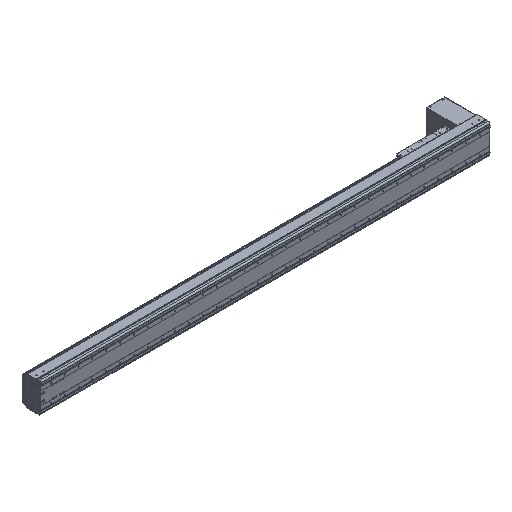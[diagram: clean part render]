
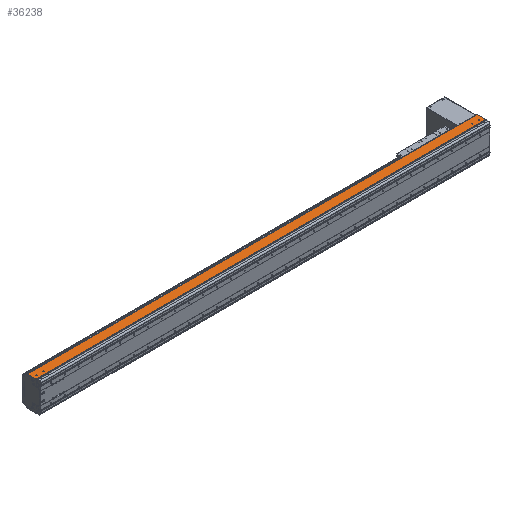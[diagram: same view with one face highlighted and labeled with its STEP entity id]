
A CAD part, isometric view. The second image highlights one B-rep face of the part: STEP entity #36238.
In plain terms, the highlighted planar face has unit normal (0, 0, 1).
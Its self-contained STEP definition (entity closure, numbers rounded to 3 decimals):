
#9657=DIRECTION('',(-1.,-0.006,-0.017));
#9658=VECTOR('',#9657,1.5);
#9659=CARTESIAN_POINT('',(1.5,94.,107.));
#9660=LINE('',#9659,#9658);
#9661=DIRECTION('',(-1.,0.,0.));
#9662=VECTOR('',#9661,3248.5);
#9663=CARTESIAN_POINT('',(0.,93.5,107.));
#9664=LINE('',#9663,#9662);
#9689=CARTESIAN_POINT('',(0.,93.992,
106.974));
#9690=CARTESIAN_POINT('',(0.,93.906,
106.974));
#9691=CARTESIAN_POINT('',(0.,93.75,
107.013));
#9692=CARTESIAN_POINT('',(0.,93.581,107.));
#9693=CARTESIAN_POINT('',(0.,93.5,107.));
#9695=CARTESIAN_POINT('',(-3223.5,54.,107.));
#9696=DIRECTION('',(0.,0.,-1.));
#9697=DIRECTION('',(1.,0.,0.));
#9698=AXIS2_PLACEMENT_3D('',#9695,#9696,#9697);
#9700=CARTESIAN_POINT('',(-3223.5,54.,107.));
#9701=DIRECTION('',(0.,0.,-1.));
#9702=DIRECTION('',(-1.,0.,0.));
#9703=AXIS2_PLACEMENT_3D('',#9700,#9701,#9702);
#9705=CARTESIAN_POINT('',(-3173.5,54.,107.));
#9706=DIRECTION('',(0.,0.,-1.));
#9707=DIRECTION('',(1.,0.,0.));
#9708=AXIS2_PLACEMENT_3D('',#9705,#9706,#9707);
#9710=CARTESIAN_POINT('',(-3173.5,54.,107.));
#9711=DIRECTION('',(0.,0.,-1.));
#9712=DIRECTION('',(-1.,0.,0.));
#9713=AXIS2_PLACEMENT_3D('',#9710,#9711,#9712);
#9715=CARTESIAN_POINT('',(-23.5,54.,107.));
#9716=DIRECTION('',(0.,0.,-1.));
#9717=DIRECTION('',(1.,0.,0.));
#9718=AXIS2_PLACEMENT_3D('',#9715,#9716,#9717);
#9720=CARTESIAN_POINT('',(-23.5,54.,107.));
#9721=DIRECTION('',(0.,0.,-1.));
#9722=DIRECTION('',(-1.,0.,0.));
#9723=AXIS2_PLACEMENT_3D('',#9720,#9721,#9722);
#9725=CARTESIAN_POINT('',(-73.5,54.,107.));
#9726=DIRECTION('',(0.,0.,-1.));
#9727=DIRECTION('',(1.,0.,0.));
#9728=AXIS2_PLACEMENT_3D('',#9725,#9726,#9727);
#9730=CARTESIAN_POINT('',(-73.5,54.,107.));
#9731=DIRECTION('',(0.,0.,-1.));
#9732=DIRECTION('',(-1.,0.,0.));
#9733=AXIS2_PLACEMENT_3D('',#9730,#9731,#9732);
#9735=DIRECTION('',(0.,-1.,0.));
#9736=VECTOR('',#9735,2.55);
#9737=CARTESIAN_POINT('',(-3246.5,34.65,107.));
#9738=LINE('',#9737,#9736);
#9739=DIRECTION('',(0.,-1.,0.));
#9740=VECTOR('',#9739,58.85);
#9741=CARTESIAN_POINT('',(-3248.5,93.5,107.));
#9742=LINE('',#9741,#9740);
#9743=DIRECTION('',(0.,1.,0.));
#9744=VECTOR('',#9743,58.35);
#9745=CARTESIAN_POINT('',(1.5,35.65,107.));
#9746=LINE('',#9745,#9744);
#9747=DIRECTION('',(0.,1.,0.));
#9748=VECTOR('',#9747,3.55);
#9749=CARTESIAN_POINT('',(0.,32.1,107.));
#9750=LINE('',#9749,#9748);
#9751=DIRECTION('',(1.,0.,0.));
#9752=VECTOR('',#9751,3246.5);
#9753=CARTESIAN_POINT('',(-3246.5,32.1,107.));
#9754=LINE('',#9753,#9752);
#9863=DIRECTION('',(1.,0.,0.));
#9864=VECTOR('',#9863,2.);
#9865=CARTESIAN_POINT('',(-3248.5,34.65,107.));
#9866=LINE('',#9865,#9864);
#9887=DIRECTION('',(1.,0.,0.));
#9888=VECTOR('',#9887,1.5);
#9889=CARTESIAN_POINT('',(0.,35.65,107.));
#9890=LINE('',#9889,#9888);
#20192=CARTESIAN_POINT('',(1.5,94.,107.));
#20193=VERTEX_POINT('',#20192);
#20194=CARTESIAN_POINT('',(1.5,35.65,107.));
#20195=VERTEX_POINT('',#20194);
#20264=CARTESIAN_POINT('',(-3248.5,34.65,107.));
#20265=VERTEX_POINT('',#20264);
#20266=CARTESIAN_POINT('',(-3248.5,93.5,107.));
#20267=VERTEX_POINT('',#20266);
#20492=CARTESIAN_POINT('',(-3246.5,32.1,107.));
#20493=VERTEX_POINT('',#20492);
#20543=CARTESIAN_POINT('',(0.,32.1,107.));
#20545=VERTEX_POINT('',#20543);
#21274=CARTESIAN_POINT('',(-3221.,54.,107.));
#21275=CARTESIAN_POINT('',(-3226.,54.,107.));
#21276=VERTEX_POINT('',#21274);
#21277=VERTEX_POINT('',#21275);
#21278=CARTESIAN_POINT('',(-3171.,54.,107.));
#21279=CARTESIAN_POINT('',(-3176.,54.,107.));
#21280=VERTEX_POINT('',#21278);
#21281=VERTEX_POINT('',#21279);
#21282=CARTESIAN_POINT('',(-21.,54.,107.));
#21283=CARTESIAN_POINT('',(-26.,54.,107.));
#21284=VERTEX_POINT('',#21282);
#21285=VERTEX_POINT('',#21283);
#21286=CARTESIAN_POINT('',(-71.,54.,107.));
#21287=CARTESIAN_POINT('',(-76.,54.,107.));
#21288=VERTEX_POINT('',#21286);
#21289=VERTEX_POINT('',#21287);
#23944=CARTESIAN_POINT('',(0.,35.65,107.));
#23945=VERTEX_POINT('',#23944);
#24078=VERTEX_POINT('',#9689);
#24079=VERTEX_POINT('',#9693);
#24535=CARTESIAN_POINT('',(-3246.5,34.65,107.));
#24536=VERTEX_POINT('',#24535);
#36194=CARTESIAN_POINT('',(-1623.25,62.8,107.));
#36195=DIRECTION('',(0.,0.,1.));
#36196=DIRECTION('',(0.,-1.,0.));
#36197=AXIS2_PLACEMENT_3D('',#36194,#36195,#36196);
#36198=PLANE('',#36197);
#36199=ORIENTED_EDGE('',*,*,#26417,.F.);
#36201=ORIENTED_EDGE('',*,*,#36200,.F.);
#36202=ORIENTED_EDGE('',*,*,#28697,.F.);
#36203=ORIENTED_EDGE('',*,*,#36180,.F.);
#36204=ORIENTED_EDGE('',*,*,#36189,.F.);
#36205=ORIENTED_EDGE('',*,*,#36170,.F.);
#36206=ORIENTED_EDGE('',*,*,#25345,.F.);
#36208=ORIENTED_EDGE('',*,*,#36207,.F.);
#36209=ORIENTED_EDGE('',*,*,#27174,.F.);
#36211=ORIENTED_EDGE('',*,*,#36210,.F.);
#36212=EDGE_LOOP('',(#36199,#36201,#36202,#36203,#36204,#36205,#36206,#36208,
#36209,#36211));
#36213=FACE_OUTER_BOUND('',#36212,.F.);
#36215=ORIENTED_EDGE('',*,*,#36214,.F.);
#36217=ORIENTED_EDGE('',*,*,#36216,.F.);
#36218=EDGE_LOOP('',(#36215,#36217));
#36219=FACE_BOUND('',#36218,.F.);
#36221=ORIENTED_EDGE('',*,*,#36220,.F.);
#36223=ORIENTED_EDGE('',*,*,#36222,.F.);
#36224=EDGE_LOOP('',(#36221,#36223));
#36225=FACE_BOUND('',#36224,.F.);
#36227=ORIENTED_EDGE('',*,*,#36226,.F.);
#36229=ORIENTED_EDGE('',*,*,#36228,.F.);
#36230=EDGE_LOOP('',(#36227,#36229));
#36231=FACE_BOUND('',#36230,.F.);
#36233=ORIENTED_EDGE('',*,*,#36232,.F.);
#36235=ORIENTED_EDGE('',*,*,#36234,.F.);
#36236=EDGE_LOOP('',(#36233,#36235));
#36237=FACE_BOUND('',#36236,.F.);
#36238=ADVANCED_FACE('',(#36213,#36219,#36225,#36231,#36237),#36198,.T.);
#9694=B_SPLINE_CURVE_WITH_KNOTS('',3,(#9689,#9690,#9691,#9692,#9693),
.UNSPECIFIED.,.F.,.F.,(4,1,4),(0.,0.5,1.),.UNSPECIFIED.);
#9699=CIRCLE('',#9698,2.5);
#9704=CIRCLE('',#9703,2.5);
#9709=CIRCLE('',#9708,2.5);
#9714=CIRCLE('',#9713,2.5);
#9719=CIRCLE('',#9718,2.5);
#9724=CIRCLE('',#9723,2.5);
#9729=CIRCLE('',#9728,2.5);
#9734=CIRCLE('',#9733,2.5);
#25345=EDGE_CURVE('',#20195,#20193,#9746,.T.);
#26417=EDGE_CURVE('',#24536,#20493,#9738,.T.);
#27174=EDGE_CURVE('',#20545,#23945,#9750,.T.);
#28697=EDGE_CURVE('',#20267,#20265,#9742,.T.);
#36170=EDGE_CURVE('',#20193,#24078,#9660,.T.);
#36180=EDGE_CURVE('',#24079,#20267,#9664,.T.);
#36189=EDGE_CURVE('',#24078,#24079,#9694,.T.);
#36200=EDGE_CURVE('',#20265,#24536,#9866,.T.);
#36207=EDGE_CURVE('',#23945,#20195,#9890,.T.);
#36210=EDGE_CURVE('',#20493,#20545,#9754,.T.);
#36214=EDGE_CURVE('',#21280,#21281,#9709,.T.);
#36216=EDGE_CURVE('',#21281,#21280,#9714,.T.);
#36220=EDGE_CURVE('',#21284,#21285,#9719,.T.);
#36222=EDGE_CURVE('',#21285,#21284,#9724,.T.);
#36226=EDGE_CURVE('',#21288,#21289,#9729,.T.);
#36228=EDGE_CURVE('',#21289,#21288,#9734,.T.);
#36232=EDGE_CURVE('',#21276,#21277,#9699,.T.);
#36234=EDGE_CURVE('',#21277,#21276,#9704,.T.);
